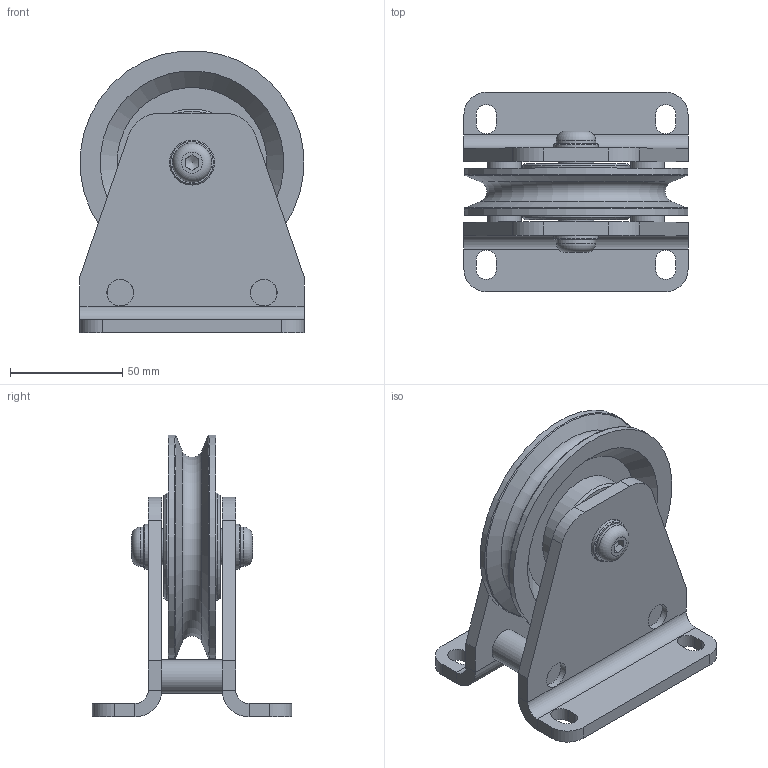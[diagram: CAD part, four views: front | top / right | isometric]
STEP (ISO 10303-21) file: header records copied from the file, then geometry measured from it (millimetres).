
FILE_DESCRIPTION(/* description */ ('Seilrollenbock ø100 VA Gleitlager komplett'),/* implementation_level */ '2;1');
FILE_NAME(/* name */ 'Z:\Workspace\03 Seilrollen\1.503 Seilrollenbock VA Gleitlager\1.503.03 Seilrollenbock ø100 VA Gleitlager\1.503.03 Seilrollenbock ø100 VA Gleitlager komplett.stp',/* time_stamp */ '2021-10-29T10:16:52+02:00',/* author */ ('cad-user'),/* organization */ (''),/* preprocessor_version */ 'ST-DEVELOPER v18',/* originating_system */ 'Autodesk Inventor 2020',/* authorisation */ '');
FILE_SCHEMA (('AUTOMOTIVE_DESIGN { 1 0 10303 214 3 1 1 }'));
Length unit declared in the file: millimetre
Products named in the file (10): 1.503.03 Seilrollenbock ø100 VA Gleitlager komplett; 1.503.03.01 Seilrollenbock VA Schweißteil; 1.503.03.01 Blech VA; 1.503.03.01 Distanzachse VA; 1.501.03 Seilrolle ø100 VA Buchse komplett; 1.501.03 Seilrolle ø100 VA Buchse; 162025BP25; 1.405.03.02 Achse; ISO 7380 - M10 x 20; DIN 125-1 - B 10,5
Assembly tree (13 placements, depth 3):
  1.503.03 Seilrollenbock ø100 VA Gleitlager komplett
    1.503.03.01 Seilrollenbock VA Schweißteil
      1.503.03.01 Blech VA  x2
      1.503.03.01 Distanzachse VA  x2
    1.501.03 Seilrolle ø100 VA Buchse komplett
      1.501.03 Seilrolle ø100 VA Buchse
      162025BP25
    1.405.03.02 Achse
    ISO 7380 - M10 x 20  x2
    DIN 125-1 - B 10,5  x2
Bounding box: 100 x 89 x 125.82 mm (x, y, z)
Volume: 233936 mm3; surface area: 87851.2 mm2
Topology: 11 solids, 11 shells, 148 faces, 377 edges, 253 vertices
Faces by surface type: plane 76, cylinder 49, cone 16, torus 7
Full cylindrical faces by diameter (mm): 8.376 x1, 10 x2, 10.4 x2, 10.5 x2, 11.8 x4, 12 x4, 15 x2, 16 x2, 17.5 x2, 20 x4, 48 x2, 100 x2
Entity records: 3265 total; most frequent: DIRECTION 576, CARTESIAN_POINT 517, ORIENTED_EDGE 462, AXIS2_PLACEMENT_3D 239, EDGE_CURVE 231, VERTEX_POINT 159, CIRCLE 126, EDGE_LOOP 112
